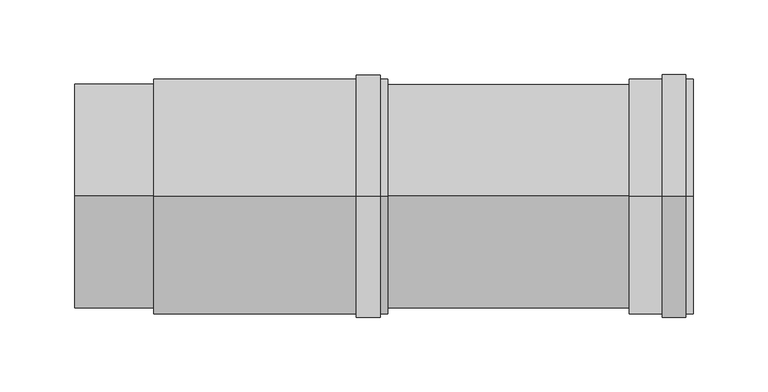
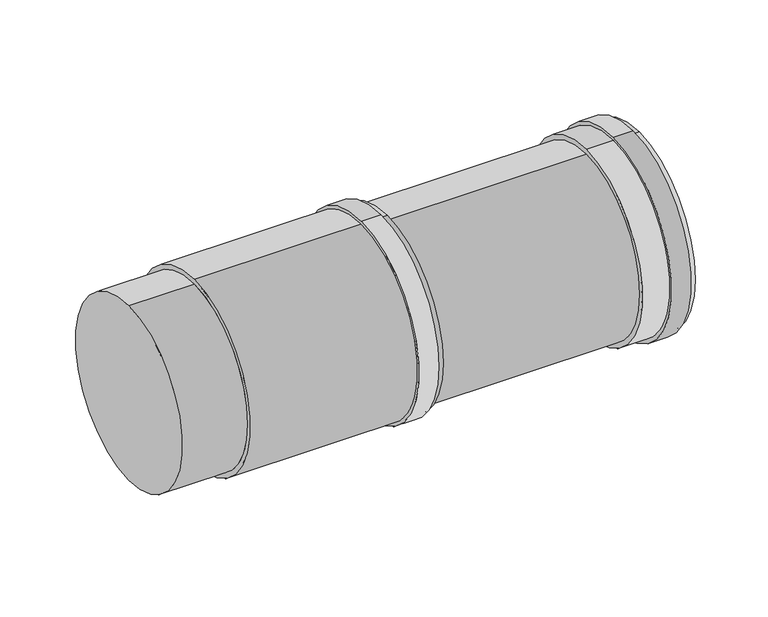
"""IFC4 building model written with IfcOpenShell, lengths in millimetres: duct fitting geometry, DERS_431_LFT_UN_Twinline Adjuster_M&G : ø130-150."""

from ifc_helpers import new_model, si_unit, point, frame, origin, origin_2d, place, context, project, spatial, polyline, circle_curve, trimmed, segment, composite_curve, outline, extrude, source, transform, mapped, element, save
from ifc_brep_helpers import plane_surface, cylinder_surface, revolved_surface, advanced_brep


def duct_fitting_c2fbb5bf(model_context):
    return source(origin(), model_context, "Body", "SolidModel", [
        extrude(outline(composite_curve([segment(trimmed(circle_curve(origin_2d(), 81.5), [point((0.0, -81.5))], [point((0.0, 81.5))], False, "CARTESIAN"), True, "CONTINUOUS"), segment(trimmed(circle_curve(origin_2d(), 81.5), [point((0.0, 81.5))], [point((0.0, -81.5))], False, "CARTESIAN"), True, "CONTINUOUS")], self_intersect=False), holes=[composite_curve([segment(trimmed(circle_curve(origin_2d(), 78.5), [point((0.0, 78.5))], [point((0.0, -78.5))], True, "CARTESIAN"), True, "CONTINUOUS"), segment(trimmed(circle_curve(origin_2d(), 78.5), [point((0.0, -78.5))], [point((0.0, 78.5))], True, "CARTESIAN"), True, "CONTINUOUS")], self_intersect=False)]), frame((189.0, 0.0, 0.0), z_axis=(1.0, 0.0, 0.0), x_axis=(0.0, 1.0, 0.0)), (0.0, 0.0, 1.0), 16.0),
        advanced_brep(
        [(372.0, 0.0, -75.0), (372.0, 0.0, 75.0), (0.0, 0.0, -75.0), (0.0, 0.0, 75.0), (210.0, 0.0, 75.0), (210.0, 0.0, -75.0), (53.0, 0.0, -75.0), (53.0, 0.0, 75.0), (210.0, 0.0, -79.0), (210.0, 0.0, 79.0), (53.0, 0.0, -79.0), (53.0, 0.0, 79.0)],
        [
            (0, 1, circle_curve(frame((372.0, 0.0, 0.0), z_axis=(1.0, 0.0, 0.0), x_axis=(0.0, 0.0, 1.0)), 75.0)),
            (1, 0, circle_curve(frame((372.0, 0.0, 0.0), z_axis=(1.0, 0.0, 0.0), x_axis=(0.0, 0.0, 1.0)), 75.0)),
            (2, 3, circle_curve(frame((0.0, 0.0, 0.0), z_axis=(-1.0, 0.0, 0.0), x_axis=(0.0, 0.0, 1.0)), 75.0)),
            (3, 2, circle_curve(frame((0.0, 0.0, 0.0), z_axis=(-1.0, 0.0, 0.0), x_axis=(0.0, 0.0, 1.0)), 75.0)),
            (1, 4),
            (4, 5, circle_curve(frame((210.0, 0.0, 0.0), z_axis=(1.0, 0.0, 0.0), x_axis=(0.0, 0.0, 1.0)), 75.0)),
            (5, 0),
            (2, 6),
            (6, 7, circle_curve(frame((53.0, 0.0, 0.0), z_axis=(-1.0, 0.0, 0.0), x_axis=(0.0, 0.0, 1.0)), 75.0)),
            (7, 3),
            (5, 4, circle_curve(frame((210.0, 0.0, 0.0), z_axis=(1.0, 0.0, 0.0), x_axis=(0.0, 0.0, 1.0)), 75.0)),
            (7, 6, circle_curve(frame((53.0, 0.0, 0.0), z_axis=(-1.0, 0.0, 0.0), x_axis=(0.0, 0.0, 1.0)), 75.0)),
            (8, 9, circle_curve(frame((210.0, 0.0, 0.0), z_axis=(1.0, 0.0, 0.0), x_axis=(0.0, 0.0, 1.0)), 79.0)),
            (9, 8, circle_curve(frame((210.0, 0.0, 0.0), z_axis=(1.0, 0.0, 0.0), x_axis=(0.0, 0.0, 1.0)), 79.0)),
            (10, 11, circle_curve(frame((53.0, 0.0, 0.0), z_axis=(-1.0, 0.0, 0.0), x_axis=(0.0, 0.0, 1.0)), 79.0)),
            (11, 10, circle_curve(frame((53.0, 0.0, 0.0), z_axis=(-1.0, 0.0, 0.0), x_axis=(0.0, 0.0, 1.0)), 79.0)),
            (8, 10),
            (11, 9),
        ],
        [
            plane_surface(frame((372.0, 0.0, 75.0), z_axis=(1.0, 0.0, 0.0), x_axis=(0.0, -1.0, 0.0))),
            plane_surface(frame((0.0, 0.0, 75.0), z_axis=(-1.0, 0.0, 0.0), x_axis=(0.0, 1.0, 0.0))),
            cylinder_surface(frame((372.0, 0.0, 0.0), z_axis=(-1.0, 0.0, 0.0), x_axis=(0.0, 0.0, 1.0)), 75.0),
            plane_surface(frame((210.0, 0.0, 79.0), z_axis=(1.0, 0.0, 0.0), x_axis=(0.0, -1.0, 0.0))),
            plane_surface(frame((53.0, 0.0, 79.0), z_axis=(-1.0, 0.0, 0.0), x_axis=(0.0, 1.0, 0.0))),
            cylinder_surface(frame((210.0, 0.0, 0.0), z_axis=(-1.0, 0.0, 0.0), x_axis=(0.0, 0.0, 1.0)), 79.0),
        ],
        [
            (0, [[1, 2]]),
            (1, [[3, 4]]),
            (2, [[-2, 5, 6, 7]]),
            (2, [[-3, 8, 9, 10]]),
            (2, [[-1, -7, 11, -5]]),
            (2, [[-4, -10, 12, -8]]),
            (3, [[13, 14], [-6, -11]]),
            (4, [[15, 16], [-9, -12]]),
            (5, [[-13, 17, -16, 18]]),
            (5, [[-14, -18, -15, -17]]),
        ],
    ),
        advanced_brep(
        [(372.0, 0.0, -79.0), (372.0, 0.0, 79.0), (415.0, 0.0, 79.0), (415.0, 0.0, -79.0), (375.0, 0.0, 76.0), (375.0, 0.0, -76.0), (415.0, 0.0, -76.0), (415.0, 0.0, 76.0)],
        [
            (0, 1, circle_curve(frame((372.0, 0.0, 0.0), z_axis=(-1.0, 0.0, 0.0), x_axis=(0.0, 0.0, 1.0)), 79.0)),
            (1, 0, circle_curve(frame((372.0, 0.0, 0.0), z_axis=(-1.0, 0.0, 0.0), x_axis=(0.0, 0.0, 1.0)), 79.0)),
            (2, 3, circle_curve(frame((415.0, 0.0, 0.0), z_axis=(-1.0, 0.0, 0.0), x_axis=(0.0, 0.0, 1.0)), 79.0)),
            (3, 0),
            (1, 2),
            (3, 2, circle_curve(frame((415.0, 0.0, 0.0), z_axis=(-1.0, 0.0, 0.0), x_axis=(0.0, 0.0, 1.0)), 79.0)),
            (4, 5, circle_curve(frame((375.0, 0.0, 0.0), z_axis=(-1.0, 0.0, 0.0), x_axis=(0.0, 0.0, -1.0)), 76.0)),
            (5, 6),
            (6, 7, circle_curve(frame((415.0, 0.0, 0.0), z_axis=(1.0, 0.0, 0.0), x_axis=(0.0, 0.0, -1.0)), 76.0)),
            (7, 4),
            (5, 4, circle_curve(frame((375.0, 0.0, 0.0), z_axis=(-1.0, 0.0, 0.0), x_axis=(0.0, 0.0, -1.0)), 76.0)),
            (7, 6, circle_curve(frame((415.0, 0.0, 0.0), z_axis=(1.0, 0.0, 0.0), x_axis=(0.0, 0.0, -1.0)), 76.0)),
        ],
        [
            plane_surface(frame((372.0, 0.0, 79.0), z_axis=(-1.0, 0.0, 0.0), x_axis=(0.0, 1.0, 0.0))),
            cylinder_surface(frame((372.0, 0.0, 0.0), z_axis=(1.0, 0.0, 0.0), x_axis=(0.0, 0.0, 1.0)), 79.0),
            revolved_surface(polyline([(375.0, 0.0, -76.0), (415.0, 0.0, -76.0)]), (415.0, 0.0, 0.0), (-1.0, 0.0, 0.0)),
            plane_surface(frame((415.0, 0.0, 79.0), z_axis=(1.0, 0.0, 0.0), x_axis=(0.0, -1.0, 0.0))),
            plane_surface(frame((375.0, 0.0, -76.0), z_axis=(1.0, 0.0, 0.0), x_axis=(0.0, -1.0, 0.0))),
        ],
        [
            (0, [[1, 2]]),
            (1, [[3, 4, -2, 5]]),
            (1, [[6, -5, -1, -4]]),
            (2, [[7, 8, 9, 10]]),
            (2, [[11, -10, 12, -8]]),
            (3, [[-3, -6], [-9, -12]]),
            (4, [[-11, -7]]),
        ],
    ),
        extrude(outline(composite_curve([segment(trimmed(circle_curve(origin_2d(), 82.0), [point((0.0, -82.0))], [point((0.0, 82.0))], False, "CARTESIAN"), True, "CONTINUOUS"), segment(trimmed(circle_curve(origin_2d(), 82.0), [point((0.0, 82.0))], [point((0.0, -82.0))], False, "CARTESIAN"), True, "CONTINUOUS")], self_intersect=False), holes=[composite_curve([segment(trimmed(circle_curve(origin_2d(), 79.0), [point((0.0, 79.0))], [point((0.0, -79.0))], True, "CARTESIAN"), True, "CONTINUOUS"), segment(trimmed(circle_curve(origin_2d(), 79.0), [point((0.0, -79.0))], [point((0.0, 79.0))], True, "CARTESIAN"), True, "CONTINUOUS")], self_intersect=False)]), frame((394.0, 0.0, 0.0), z_axis=(1.0, 0.0, 0.0), x_axis=(0.0, 1.0, 0.0)), (0.0, 0.0, 1.0), 16.0),
    ])


if __name__ == "__main__":
    model = new_model("IFC4")
    model_context = context("Model", 3, world=origin())
    ifc_project = project(units=[si_unit("LENGTHUNIT", "METRE", prefix="MILLI")], contexts=[model_context])
    site = spatial("IfcSite", under=ifc_project)
    building = spatial("IfcBuilding", under=site)
    placement = place(None, origin())
    duct_fitting_shape = duct_fitting_c2fbb5bf(model_context)
    element("IfcDuctFitting", 1, ObjectType="DERS_431_LFT_UN_Twinline Adjuster_M&G : ø130-150", at=placement, inside=building, context=model_context, shape_type="MappedRepresentation", body=[
        mapped(duct_fitting_shape, transform((0.0, 0.0, 0.0), x_axis=(1.0, 0.0, 0.0), y_axis=(0.0, 1.0, 0.0), z_axis=(0.0, 0.0, 1.0))),
    ])
    save(model, "model.ifc")
